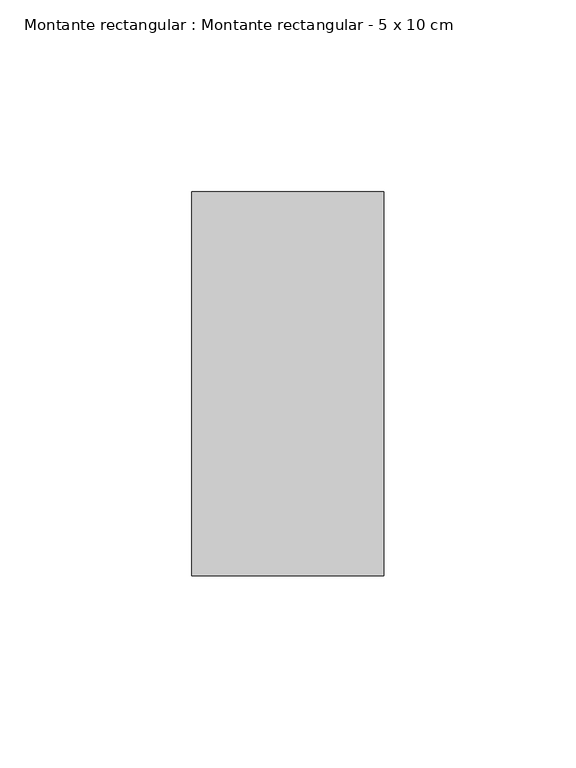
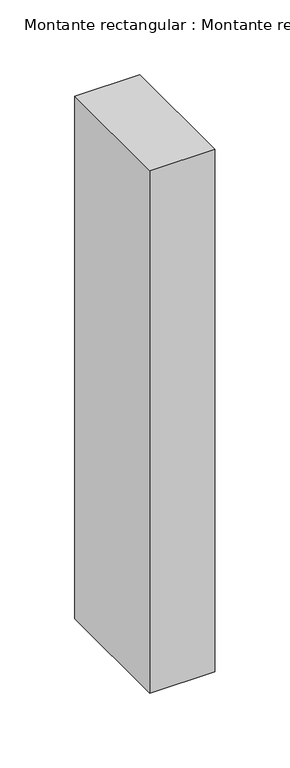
"""IFC4 building model written with IfcOpenShell, lengths in millimetres: member geometry, Montante rectangular : Montante rectangular - 5 x 10 cm."""

from ifc_helpers import new_model, si_unit, frame, origin, place, context, project, spatial, polyline, outline, extrude, source, transform, mapped, element, save


def montante_rectangular_montante_rectangular_5_x_10_cm_6cffce55(model_context):
    return source(origin(), model_context, "Body", "SweptSolid", [
        extrude(outline(polyline([(25.0, 50.0), (25.0, -50.0), (-25.0, -50.0), (-25.0, 50.0), (25.0, 50.0)])), frame((0.0, 0.0, -425.0), z_axis=(0.0, 0.0, 1.0), x_axis=(1.0, 0.0, 0.0)), (0.0, 0.0, 1.0), 425.0),
    ])


if __name__ == "__main__":
    model = new_model("IFC4")
    model_context = context("Model", 3, world=origin())
    ifc_project = project(units=[si_unit("LENGTHUNIT", "METRE", prefix="MILLI")], contexts=[model_context])
    site = spatial("IfcSite", under=ifc_project)
    building = spatial("IfcBuilding", under=site)
    placement = place(None, origin())
    montante_rectangular_montante_rectangular_5_x_10_cm_shape = montante_rectangular_montante_rectangular_5_x_10_cm_6cffce55(model_context)
    element("IfcMember", 1, ObjectType="Montante rectangular : Montante rectangular - 5 x 10 cm", at=placement, inside=building, context=model_context, shape_type="MappedRepresentation", body=[
        mapped(montante_rectangular_montante_rectangular_5_x_10_cm_shape, transform((0.0, 0.0, 0.0), x_axis=(1.0, 0.0, 0.0), y_axis=(0.0, 1.0, 0.0), z_axis=(0.0, 0.0, 1.0))),
    ])
    save(model, "model.ifc")
